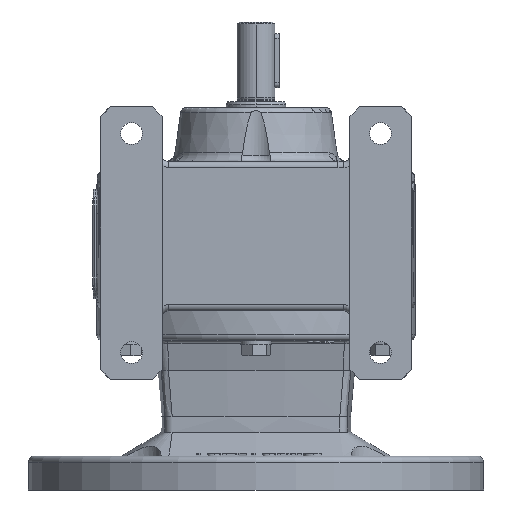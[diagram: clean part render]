
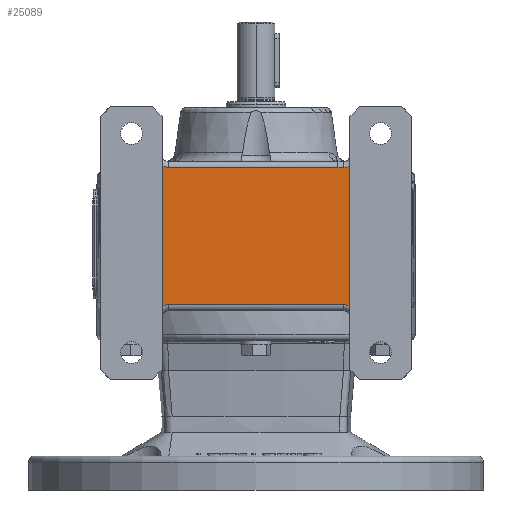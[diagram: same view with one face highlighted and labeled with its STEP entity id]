
A CAD part, front view. The second image highlights one B-rep face of the part: STEP entity #25089.
In plain terms, the highlighted planar face has unit normal (0, -1, 0).
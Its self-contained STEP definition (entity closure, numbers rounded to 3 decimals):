
#629 = DIRECTION ( 'NONE',  ( 0., 0., 1. ) ) ;
#630 = DIRECTION ( 'NONE',  ( 0., 1., 0. ) ) ;
#631 = CARTESIAN_POINT ( 'NONE',  ( 44.119, -60., -78. ) ) ;
#637 = DIRECTION ( 'NONE',  ( 0., 0., 1. ) ) ;
#638 = DIRECTION ( 'NONE',  ( 0., 0., 1. ) ) ;
#639 = DIRECTION ( 'NONE',  ( 0., 1., 0. ) ) ;
#640 = CARTESIAN_POINT ( 'NONE',  ( -44.119, -60., -78. ) ) ;
#644 = CARTESIAN_POINT ( 'NONE',  ( 47.119, -60., -12. ) ) ;
#870 = ORIENTED_EDGE ( 'NONE', *, *, #9714, .F. ) ;
#1360 = ORIENTED_EDGE ( 'NONE', *, *, #8790, .T. ) ;
#3030 = AXIS2_PLACEMENT_3D ( 'NONE', #16062, #16069, #16070 ) ;
#3835 = CARTESIAN_POINT ( 'NONE',  ( -44.119, -60., -3. ) ) ;
#6850 = FACE_OUTER_BOUND ( 'NONE', #13302, .T. ) ;
#8319 = EDGE_CURVE ( 'NONE', #31533, #26793, #26235, .T. ) ;
#8328 = EDGE_CURVE ( 'NONE', #26793, #26783, #26245, .T. ) ;
#8331 = EDGE_CURVE ( 'NONE', #26783, #22617, #26252, .T. ) ;
#8333 = EDGE_CURVE ( 'NONE', #22617, #26895, #26249, .T. ) ;
#8790 = EDGE_CURVE ( 'NONE', #30068, #30063, #27277, .T. ) ;
#8792 = EDGE_CURVE ( 'NONE', #30030, #30043, #27278, .T. ) ;
#8793 = EDGE_CURVE ( 'NONE', #30043, #31533, #27280, .T. ) ;
#9679 = EDGE_CURVE ( 'NONE', #30063, #30030, #27788, .T. ) ;
#9714 = EDGE_CURVE ( 'NONE', #30068, #26895, #27819, .T. ) ;
#13302 = EDGE_LOOP ( 'NONE', ( #870, #1360, #22527, #22278, #22192, #22194, #22333, #22282, #22196 ) ) ;
#16062 = CARTESIAN_POINT ( 'NONE',  ( -85.911, -60., -80. ) ) ;
#16066 = PLANE ( 'NONE',  #3030 ) ;
#16069 = DIRECTION ( 'NONE',  ( 0., 1., 0. ) ) ;
#16070 = DIRECTION ( 'NONE',  ( 0., 0., 1. ) ) ;
#19591 = CARTESIAN_POINT ( 'NONE',  ( 41.112, -60., -3. ) ) ;
#19603 = CARTESIAN_POINT ( 'NONE',  ( 44.09, -60., -3.014 ) ) ;
#19735 = CARTESIAN_POINT ( 'NONE',  ( -47.119, -60., -2.196 ) ) ;
#19826 = CARTESIAN_POINT ( 'NONE',  ( 44.119, -60., -72. ) ) ;
#19833 = CARTESIAN_POINT ( 'NONE',  ( 47.119, -60., -72.804 ) ) ;
#19845 = CARTESIAN_POINT ( 'NONE',  ( -44.119, -60., -72. ) ) ;
#19847 = CARTESIAN_POINT ( 'NONE',  ( -47.119, -60., -72.804 ) ) ;
#19869 = CARTESIAN_POINT ( 'NONE',  ( 47.119, -60., -2.21 ) ) ;
#22192 = ORIENTED_EDGE ( 'NONE', *, *, #8793, .T. ) ;
#22194 = ORIENTED_EDGE ( 'NONE', *, *, #8319, .T. ) ;
#22196 = ORIENTED_EDGE ( 'NONE', *, *, #8333, .T. ) ;
#22278 = ORIENTED_EDGE ( 'NONE', *, *, #8792, .T. ) ;
#22282 = ORIENTED_EDGE ( 'NONE', *, *, #8331, .T. ) ;
#22333 = ORIENTED_EDGE ( 'NONE', *, *, #8328, .T. ) ;
#22527 = ORIENTED_EDGE ( 'NONE', *, *, #9679, .T. ) ;
#22617 = VERTEX_POINT ( 'NONE', #3835 ) ;
#24237 = AXIS2_PLACEMENT_3D ( 'NONE', #38221, #38216, #38222 ) ;
#24241 = AXIS2_PLACEMENT_3D ( 'NONE', #38230, #38181, #38179 ) ;
#24351 = AXIS2_PLACEMENT_3D ( 'NONE', #640, #639, #638 ) ;
#24353 = AXIS2_PLACEMENT_3D ( 'NONE', #631, #630, #629 ) ;
#25089 = ADVANCED_FACE ( 'NONE', ( #6850 ), #16066, .F. ) ;
#26235 = CIRCLE ( 'NONE', #24237, 6. ) ;
#26245 = LINE ( 'NONE', #38256, #26251 ) ;
#26249 = CIRCLE ( 'NONE', #24241, 6. ) ;
#26251 = VECTOR ( 'NONE', #38139, 1000. ) ;
#26252 = LINE ( 'NONE', #38192, #26254 ) ;
#26254 = VECTOR ( 'NONE', #38227, 1000. ) ;
#26783 = VERTEX_POINT ( 'NONE', #19591 ) ;
#26793 = VERTEX_POINT ( 'NONE', #19603 ) ;
#26895 = VERTEX_POINT ( 'NONE', #19735 ) ;
#27277 = CIRCLE ( 'NONE', #24351, 6. ) ;
#27278 = CIRCLE ( 'NONE', #24353, 6. ) ;
#27280 = LINE ( 'NONE', #644, #27283 ) ;
#27283 = VECTOR ( 'NONE', #637, 1000. ) ;
#27788 = LINE ( 'NONE', #33186, #27793 ) ;
#27793 = VECTOR ( 'NONE', #33188, 1000. ) ;
#27818 = VECTOR ( 'NONE', #33274, 1000. ) ;
#27819 = LINE ( 'NONE', #33273, #27818 ) ;
#30030 = VERTEX_POINT ( 'NONE', #19826 ) ;
#30043 = VERTEX_POINT ( 'NONE', #19833 ) ;
#30063 = VERTEX_POINT ( 'NONE', #19845 ) ;
#30068 = VERTEX_POINT ( 'NONE', #19847 ) ;
#31533 = VERTEX_POINT ( 'NONE', #19869 ) ;
#33186 = CARTESIAN_POINT ( 'NONE',  ( 44.119, -60., -72. ) ) ;
#33188 = DIRECTION ( 'NONE',  ( 1., 0., 0. ) ) ;
#33273 = CARTESIAN_POINT ( 'NONE',  ( -47.119, -60., -12. ) ) ;
#33274 = DIRECTION ( 'NONE',  ( 0., 0., 1. ) ) ;
#38139 = DIRECTION ( 'NONE',  ( -1., 0., 0.005 ) ) ;
#38179 = DIRECTION ( 'NONE',  ( 0., 0., 1. ) ) ;
#38181 = DIRECTION ( 'NONE',  ( 0., 1., 0. ) ) ;
#38192 = CARTESIAN_POINT ( 'NONE',  ( -44.119, -60., -3. ) ) ;
#38216 = DIRECTION ( 'NONE',  ( 0., 1., 0. ) ) ;
#38221 = CARTESIAN_POINT ( 'NONE',  ( 44.119, -60., 2.986 ) ) ;
#38222 = DIRECTION ( 'NONE',  ( 0., 0., 1. ) ) ;
#38227 = DIRECTION ( 'NONE',  ( -1., 0., 0. ) ) ;
#38230 = CARTESIAN_POINT ( 'NONE',  ( -44.119, -60., 3. ) ) ;
#38256 = CARTESIAN_POINT ( 'NONE',  ( 41.105, -60., -3. ) ) ;
